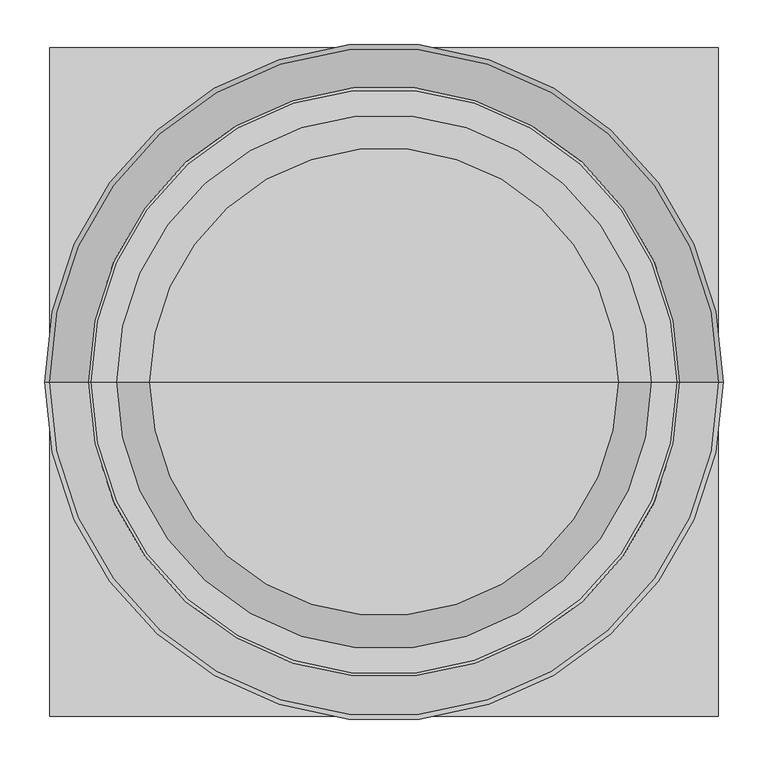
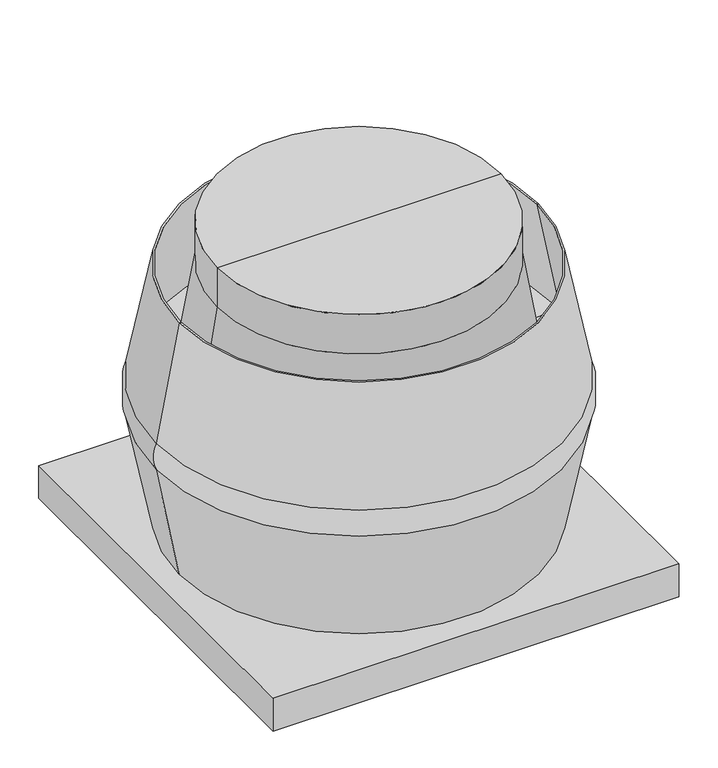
"""IFC4 building model written with IfcOpenShell, lengths in millimetres: proxy geometry, Centrifugal Fan -  Rooftop  - Upblast : D3040200_CentrifugalFan_Rooftop_Upblast_2099-4036 CFM."""

from ifc_helpers import new_model, si_unit, point, frame, origin, origin_with_axes, place, context, project, spatial, polyline, circle_curve, ellipse_curve, trimmed, source, transform, mapped, element, save
from ifc_brep_helpers import plane_surface, cylinder_surface, revolved_surface, advanced_brep


def mechanical_equipment_a255a3f5(model_context):
    return source(origin(), model_context, "Body", "AdvancedBrep", [
        advanced_brep(
        [(373.0625, 0.0, 333.375), (-373.0625, 0.0, 333.375), (-330.2, 0.0, 552.45), (330.2, 0.0, 552.45), (373.0625, 0.0, 282.575), (-373.0625, 0.0, 282.575), (330.2, 0.0, 63.5), (-330.2, 0.0, 63.5), (228.6, 0.0, 63.5), (0.0, 0.0, 63.5), (-228.6, 0.0, 63.5), (-327.025, 0.0, 552.45), (327.025, 0.0, 552.45), (369.8875, 0.0, 333.375), (-369.8875, 0.0, 333.375), (-298.45, 0.0, 333.375), (298.45, 0.0, 333.375), (373.0625, 373.0625, 63.5), (-373.0625, 373.0625, 63.5), (-373.0625, -373.0625, 63.5), (373.0625, -373.0625, 63.5), (373.0625, 373.0625, 0.0), (373.0625, -373.0625, 0.0), (-373.0625, -373.0625, 0.0), (-373.0625, 373.0625, 0.0), (-228.6, 0.0, 0.0), (228.6, 0.0, 0.0), (-261.14375, 0.0, 635.0), (261.14375, 0.0, 635.0), (261.14375, 0.0, 558.8), (-261.14375, 0.0, 558.8), (0.0, 0.0, 635.0)],
        [
            (0, 1, circle_curve(frame((0.0, 0.0, 333.375), z_axis=(0.0, 0.0, 1.0), x_axis=(-1.0, 0.0, 0.0)), 373.0625)),
            (1, 2),
            (2, 3, circle_curve(frame((0.0, 0.0, 552.45), z_axis=(0.0, 0.0, -1.0), x_axis=(-1.0, 0.0, 0.0)), 330.2)),
            (3, 0),
            (1, 0, circle_curve(frame((0.0, 0.0, 333.375), z_axis=(0.0, 0.0, 1.0), x_axis=(-1.0, 0.0, 0.0)), 373.0625)),
            (3, 2, circle_curve(frame((0.0, 0.0, 552.45), z_axis=(0.0, 0.0, -1.0), x_axis=(-1.0, 0.0, 0.0)), 330.2)),
            (0, 4, circle_curve(frame((318.824906, 0.0, 307.975), z_axis=(0.0, 1.0, 0.0), x_axis=(-1.0, 0.0, 0.0)), 59.8905385)),
            (4, 5, circle_curve(frame((0.0, 0.0, 282.575), z_axis=(0.0, 0.0, 1.0), x_axis=(-1.0, 0.0, 0.0)), 373.0625)),
            (5, 1, circle_curve(frame((-318.824906, 0.0, 307.975), z_axis=(0.0, 1.0, 0.0), x_axis=(1.0, 0.0, 0.0)), 59.8905385)),
            (5, 4, circle_curve(frame((0.0, 0.0, 282.575), z_axis=(0.0, 0.0, 1.0), x_axis=(-1.0, 0.0, 0.0)), 373.0625)),
            (4, 6),
            (6, 7, circle_curve(frame((0.0, 0.0, 63.5), z_axis=(0.0, 0.0, 1.0), x_axis=(-1.0, 0.0, 0.0)), 330.2)),
            (7, 5),
            (7, 6, circle_curve(frame((0.0, 0.0, 63.5), z_axis=(0.0, 0.0, 1.0), x_axis=(-1.0, 0.0, 0.0)), 330.2)),
            (8, 9),
            (9, 10),
            (10, 8, circle_curve(frame((0.0, 0.0, 63.5), z_axis=(0.0, 0.0, -1.0), x_axis=(1.0, 0.0, 0.0)), 228.6)),
            (8, 10, circle_curve(frame((0.0, 0.0, 63.5), z_axis=(0.0, 0.0, -1.0), x_axis=(1.0, 0.0, 0.0)), 228.6)),
            (2, 11),
            (11, 12, circle_curve(frame((0.0, 0.0, 552.45), z_axis=(0.0, 0.0, -1.0), x_axis=(-1.0, 0.0, 0.0)), 327.025)),
            (12, 3),
            (12, 11, circle_curve(frame((0.0, 0.0, 552.45), z_axis=(0.0, 0.0, -1.0), x_axis=(-1.0, 0.0, 0.0)), 327.025)),
            (13, 12),
            (11, 14),
            (14, 13, circle_curve(frame((0.0, 0.0, 333.375), z_axis=(0.0, 0.0, -1.0), x_axis=(-1.0, 0.0, 0.0)), 369.8875)),
            (13, 14, circle_curve(frame((0.0, 0.0, 333.375), z_axis=(0.0, 0.0, -1.0), x_axis=(-1.0, 0.0, 0.0)), 369.8875)),
            (14, 15),
            (15, 16, circle_curve(frame((0.0, 0.0, 333.375), z_axis=(0.0, 0.0, -1.0), x_axis=(1.0, 0.0, 0.0)), 298.45)),
            (16, 13),
            (16, 15, circle_curve(frame((0.0, 0.0, 333.375), z_axis=(0.0, 0.0, -1.0), x_axis=(1.0, 0.0, 0.0)), 298.45)),
            (17, 18),
            (18, 19),
            (19, 20),
            (20, 17),
            (21, 22),
            (22, 23),
            (23, 24),
            (24, 21),
            (25, 26, circle_curve(origin_with_axes(), 228.6)),
            (26, 25, circle_curve(origin_with_axes(), 228.6)),
            (17, 21),
            (24, 18),
            (23, 19),
            (22, 20),
            (25, 10),
            (8, 26),
            (27, 28, circle_curve(frame((0.0, 0.0, 635.0), z_axis=(0.0, 0.0, -1.0), x_axis=(1.0, 0.0, 0.0)), 261.14375)),
            (28, 29),
            (29, 30, circle_curve(frame((0.0, 0.0, 558.8), z_axis=(0.0, 0.0, 1.0), x_axis=(1.0, 0.0, 0.0)), 261.14375)),
            (30, 27),
            (28, 27, circle_curve(frame((0.0, 0.0, 635.0), z_axis=(0.0, 0.0, -1.0), x_axis=(1.0, 0.0, 0.0)), 261.14375)),
            (30, 29, circle_curve(frame((0.0, 0.0, 558.8), z_axis=(0.0, 0.0, 1.0), x_axis=(1.0, 0.0, 0.0)), 261.14375)),
            (27, 31),
            (31, 28),
            (29, 16),
            (15, 30),
        ],
        [
            revolved_surface(polyline([(-330.2, 0.0, 552.45), (-373.0625, 0.0, 333.375)]), (0.0, 0.0, 552.45), (0.0, 0.0, -1.0)),
            revolved_surface(trimmed(ellipse_curve(frame((-318.824906, 0.0, 307.975), z_axis=(0.0, -1.0, 0.0), x_axis=(1.0, 0.0, 0.0)), 59.8905385, 59.8905385), [point((-373.0625, 0.0, 333.375))], [point((-373.0625, 0.0, 282.575))], True, "CARTESIAN"), (0.0, 0.0, 552.45), (0.0, 0.0, -1.0)),
            revolved_surface(polyline([(-373.0625, 0.0, 282.575), (-330.2, 0.0, 63.5)]), (0.0, 0.0, 552.45), (0.0, 0.0, -1.0)),
            plane_surface(frame((0.0, 0.0, 63.5), z_axis=(0.0, 0.0, -1.0), x_axis=(-1.0, 0.0, 0.0))),
            plane_surface(frame((0.0, 0.0, 552.45), z_axis=(0.0, 0.0, 1.0), x_axis=(-1.0, 0.0, 0.0))),
            revolved_surface(polyline([(-369.8875, 0.0, 333.375), (-327.025, 0.0, 552.45)]), (0.0, 0.0, 552.45), (0.0, 0.0, -1.0)),
            plane_surface(frame((0.0, 0.0, 333.375), z_axis=(0.0, 0.0, 1.0), x_axis=(-1.0, 0.0, 0.0))),
            plane_surface(frame((-373.0625, 373.0625, 63.5), z_axis=(0.0, 0.0, 1.0), x_axis=(-1.0, 0.0, 0.0))),
            plane_surface(frame((-373.0625, 373.0625, 0.0), z_axis=(0.0, 0.0, -1.0), x_axis=(1.0, 0.0, 0.0))),
            plane_surface(frame((373.0625, 373.0625, 63.5), z_axis=(0.0, 1.0, 0.0), x_axis=(0.0, 0.0, -1.0))),
            plane_surface(frame((-373.0625, 373.0625, 63.5), z_axis=(-1.0, 0.0, 0.0), x_axis=(0.0, 0.0, -1.0))),
            plane_surface(frame((-373.0625, -373.0625, 63.5), z_axis=(0.0, -1.0, 0.0), x_axis=(0.0, 0.0, -1.0))),
            plane_surface(frame((373.0625, -373.0625, 63.5), z_axis=(1.0, 0.0, 0.0), x_axis=(0.0, 0.0, -1.0))),
            revolved_surface(polyline([(228.6, 0.0, 63.5), (228.6, 0.0, 0.0)]), (0.0, 0.0, 0.0), (0.0, 0.0, 1.0)),
            cylinder_surface(frame((0.0, 0.0, 635.0), z_axis=(0.0, 0.0, 1.0), x_axis=(1.0, 0.0, 0.0)), 261.14375),
            plane_surface(frame((0.0, 0.0, 635.0), z_axis=(0.0, 0.0, 1.0), x_axis=(1.0, 0.0, 0.0))),
            revolved_surface(polyline([(298.45, 0.0, 333.375), (261.14375, 0.0, 558.8)]), (0.0, 0.0, 635.0), (0.0, 0.0, 1.0)),
        ],
        [
            (0, [[1, 2, 3, 4]]),
            (0, [[-2, 5, -4, 6]]),
            (1, [[-1, 7, 8, 9]]),
            (1, [[-5, -9, 10, -7]]),
            (2, [[-8, 11, 12, 13]]),
            (2, [[-10, -13, 14, -11]]),
            (3, [[15, 16, 17]]),
            (3, [[-15, 18, -16]]),
            (4, [[-3, 19, 20, 21]]),
            (4, [[-6, -21, 22, -19]]),
            (5, [[23, -20, 24, 25]]),
            (5, [[-23, 26, -24, -22]]),
            (6, [[-25, 27, 28, 29]]),
            (6, [[-26, -29, 30, -27]]),
            (7, [[31, 32, 33, 34], [-12, -14]]),
            (8, [[35, 36, 37, 38], [39, 40]]),
            (9, [[-31, 41, -38, 42]]),
            (10, [[-32, -42, -37, 43]]),
            (11, [[-33, -43, -36, 44]]),
            (12, [[-34, -44, -35, -41]]),
            (13, [[45, -18, 46, -39]]),
            (13, [[-45, -40, -46, -17]]),
            (14, [[47, 48, 49, 50]]),
            (14, [[-48, 51, -50, 52]]),
            (15, [[-47, 53, 54]]),
            (15, [[-51, -54, -53]]),
            (16, [[-49, 55, -28, 56]]),
            (16, [[-52, -56, -30, -55]]),
        ],
    ),
    ])


if __name__ == "__main__":
    model = new_model("IFC4")
    model_context = context("Model", 3, world=origin())
    ifc_project = project(units=[si_unit("LENGTHUNIT", "METRE", prefix="MILLI")], contexts=[model_context])
    site = spatial("IfcSite", under=ifc_project)
    building = spatial("IfcBuilding", under=site)
    placement = place(None, origin())
    mechanical_equipment_shape = mechanical_equipment_a255a3f5(model_context)
    element("IfcBuildingElementProxy", 1, Name="Centrifugal Fan -  Rooftop  - Upblast : D3040200_CentrifugalFan_Rooftop_Upblast_2099-4036 CFM", ObjectType="Centrifugal Fan -  Rooftop  - Upblast : D3040200_CentrifugalFan_Rooftop_Upblast_2099-4036 CFM", at=placement, inside=building, context=model_context, shape_type="MappedRepresentation", body=[
        mapped(mechanical_equipment_shape, transform((0.0, 0.0, 0.0), x_axis=(1.0, 0.0, 0.0), y_axis=(0.0, 1.0, 0.0), z_axis=(0.0, 0.0, 1.0))),
    ])
    save(model, "model.ifc")
